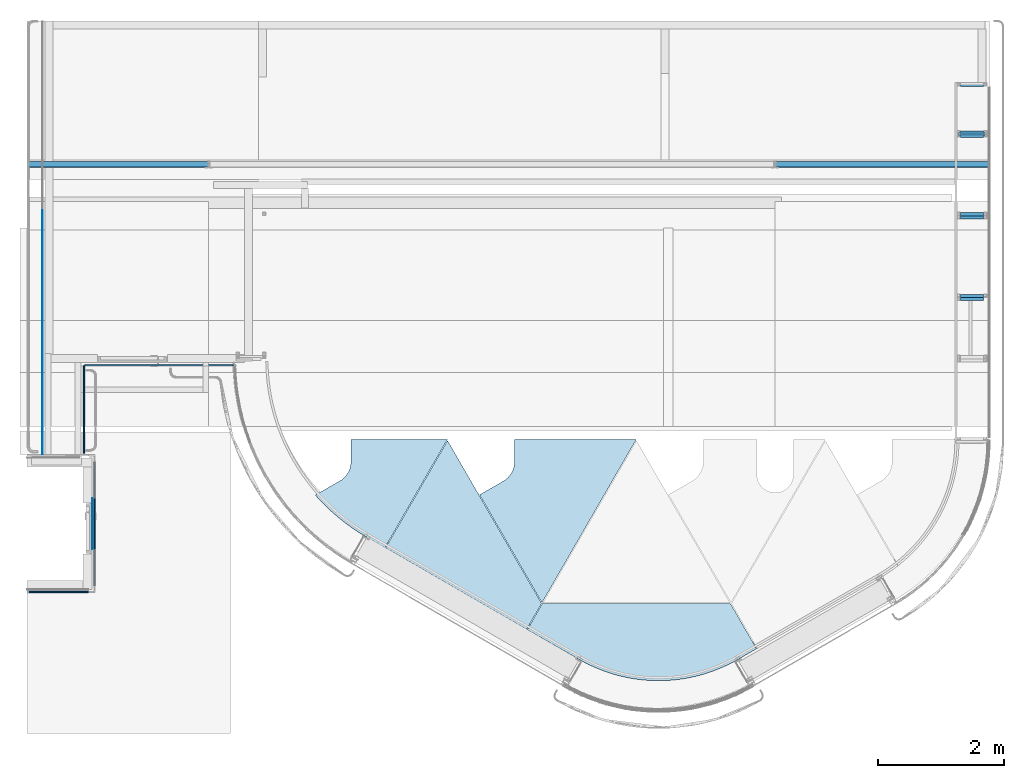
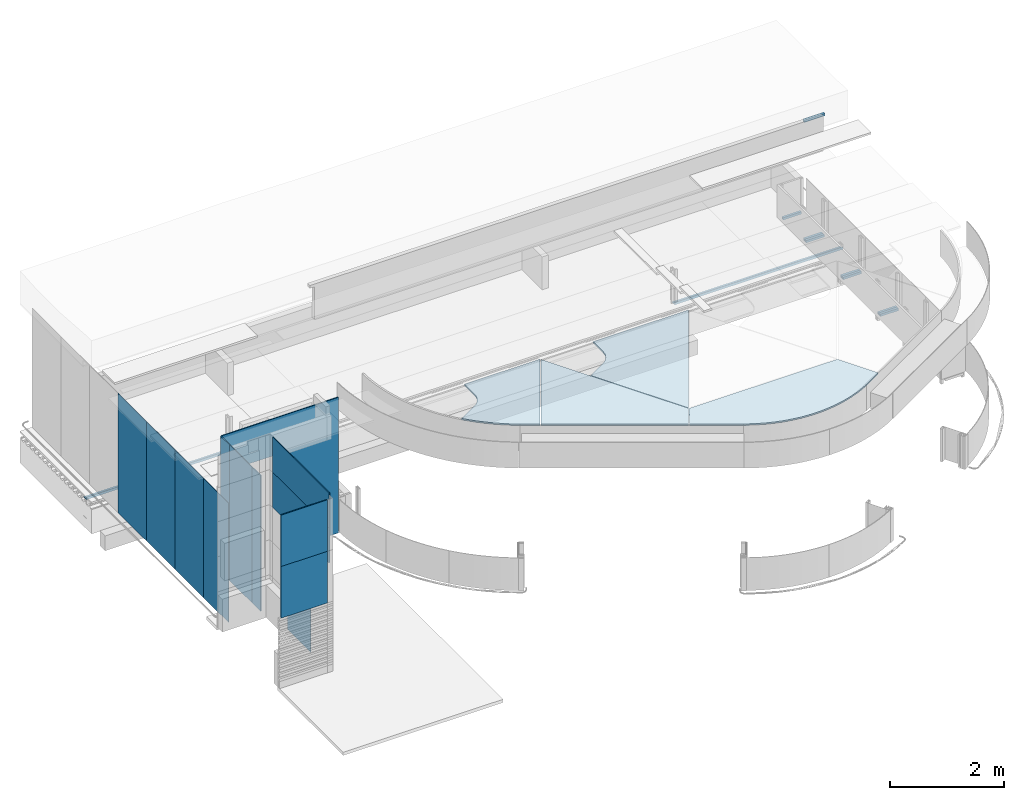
# One storey, part 8 of 18: 13 plates, 10 beams, 4 slabs, 5 elements without a shape of their own.
"""IFC2X3 building model written with IfcOpenShell, lengths in millimetres."""

from ifc_helpers import new_model, entity, si_unit, converted_unit, derived_unit, direction, frame, frame_2d, origin, origin_with_axes, origin_2d_with_axis, place, context, subcontext, project, spatial, polyline, circle_curve, parameter, trimmed, segment, composite_curve, rectangle, outline, extrude, boolean, faceted_brep, source, transform, mapped, material, layer, layer_set, layer_usage, type_object, element, aggregate, save


model = new_model("IFC2X3")

# Units and contexts
model_context = context("Model", 3, precision=0.01, world=frame((0.0, 4.29681676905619e-09, 0.0)), true_north=direction((4.01073788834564e-13, 1.0)))
plan_context = context("Plan", 3, precision=0.01, world=frame((0.0, 4.29681676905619e-09, 0.0)), true_north=direction((4.01073788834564e-13, 1.0)))
body_context = subcontext(model_context, "Body", "Model", "MODEL_VIEW")
ifc_project = project(units=[converted_unit("PLANEANGLEUNIT", "DEGREE", entity("IfcPositiveLengthMeasure", 0.0174532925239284), si_unit("PLANEANGLEUNIT", "RADIAN"), dimensions=[0, 0, 0, 0, 0, 0, 0]), si_unit("AREAUNIT", "SQUARE_METRE"), si_unit("LENGTHUNIT", "METRE", prefix="MILLI"), si_unit("MASSUNIT", "GRAM", prefix="KILO"), si_unit("POWERUNIT", "WATT"), si_unit("PRESSUREUNIT", "PASCAL"), si_unit("FORCEUNIT", "NEWTON", prefix="KILO"), si_unit("ELECTRICVOLTAGEUNIT", "VOLT"), si_unit("ELECTRICCURRENTUNIT", "AMPERE"), si_unit("THERMODYNAMICTEMPERATUREUNIT", "DEGREE_CELSIUS"), si_unit("TIMEUNIT", "SECOND"), si_unit("VOLUMEUNIT", "CUBIC_METRE"), derived_unit("LINEARVELOCITYUNIT", [(si_unit("LENGTHUNIT", "METRE"), 1), (si_unit("TIMEUNIT", "SECOND"), -1)]), derived_unit("VOLUMETRICFLOWRATEUNIT", [(si_unit("VOLUMEUNIT", "CUBIC_METRE"), 1), (si_unit("TIMEUNIT", "SECOND"), -1)]), derived_unit("THERMALTRANSMITTANCEUNIT", [(si_unit("POWERUNIT", "WATT"), 1), (si_unit("THERMODYNAMICTEMPERATUREUNIT", "KELVIN"), -1), (si_unit("AREAUNIT", "SQUARE_METRE"), -1)]), derived_unit("SOUNDPRESSUREUNIT", [(si_unit("PRESSUREUNIT", "PASCAL"), 1)])], contexts=[model_context, plan_context])

# Site, building, storey
site_placement = place(None, origin_with_axes())
site = spatial("IfcSite", under=ifc_project, at=site_placement, Name="ENGM", CompositionType="ELEMENT")
building_placement = place(site_placement, origin_with_axes())
building = spatial("IfcBuilding", under=site, at=building_placement, Name="TH", CompositionType="ELEMENT")
storey_placement = place(building_placement, frame((0.0, 0.0, 210200.0), z_axis=(0.0, 0.0, 1.0), x_axis=(1.0, 0.0, 0.0)))
storey = spatial("IfcBuildingStorey", under=building, at=storey_placement, Name="Nivå F - 0,7 m", CompositionType="ELEMENT", Elevation=210200.0)

# Beams
beam_type_1 = type_object("IfcBeamType", Name="B223 - Bjelke - L:B223 -100x50x8", PredefinedType="BEAM")
beam_1_placement = place(storey_placement, frame((889009.999999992, 485076.987499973, -4.0), z_axis=(0.0, 0.0, 1.0), x_axis=(1.0, 0.0, 0.0)))
element("IfcBeam", 1, at=beam_1_placement, inside=storey, type_object=beam_type_1, Name="B223 - Bjelke - L:B223 -100x50x8", ObjectType="B223 - Bjelke - L:B223 -100x50x8", context=body_context, shape_type="Brep", body=[
    faceted_brep([(6101.90616857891, -50.0, 0.0), (6101.90616857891, -42.0, -3.46496165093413e-11), (8980.00000000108, -42.0, -3.46496165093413e-11), (8980.00000000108, -50.0, 0.0), (6101.90616857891, -50.0, -49.9999999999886), (8980.00000000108, -50.0, -49.9999999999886), (6101.90616857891, 50.0, -50.0000000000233), (8980.00000000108, 50.0, -50.0000000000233), (6101.90616857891, 50.0, -42.0000000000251), (8980.00000000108, 50.0, -42.0000000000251), (6101.90616857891, -42.0, -42.0000000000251), (8980.00000000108, -42.0, -42.0000000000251)], [[[0, 1, 2, 3]], [[4, 0, 3, 5]], [[6, 4, 5, 7]], [[8, 6, 7, 9]], [[10, 8, 9, 11]], [[1, 10, 11, 2]], [[3, 2, 11, 9, 7, 5]], [[4, 6, 8, 10, 1, 0]]], orient=[[False], [False], [False], [False], [False], [False], [False], [False]]),
])
beam_2_placement = place(storey_placement, frame((907009.999999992, 485076.987499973, -4.0), z_axis=(0.0, 0.0, 1.0), x_axis=(1.0, 0.0, 0.0)))
element("IfcBeam", 2, at=beam_2_placement, inside=storey, type_object=beam_type_1, Name="B223 - Bjelke - L:B223 -100x50x8", ObjectType="B223 - Bjelke - L:B223 -100x50x8", context=body_context, shape_type="Brep", body=[
    faceted_brep([(3400.58484180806, -42.0, -3.46496165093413e-11), (3400.58484180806, -50.0, 0.0), (0.0, -50.0, 0.0), (0.0, -42.0, -3.46496165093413e-11), (3400.58484180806, -50.0, -49.9999999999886), (0.0, -50.0, -49.9999999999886), (3400.58484180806, 50.0, -50.0000000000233), (0.0, 50.0, -50.0000000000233), (3400.58484180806, 50.0, -42.0000000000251), (0.0, 50.0, -42.0000000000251), (3400.58484180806, -42.0, -42.0000000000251), (0.0, -42.0, -42.0000000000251)], [[[0, 1, 2, 3]], [[1, 4, 5, 2]], [[4, 6, 7, 5]], [[6, 8, 9, 7]], [[8, 10, 11, 9]], [[10, 0, 3, 11]], [[3, 2, 5, 7, 9, 11]], [[10, 8, 6, 4, 1, 0]]], orient=[[False], [False], [False], [False], [False], [False], [False], [False]]),
])
ifc_material_1 = material(Name="_NSW Stål")
beam_type_2 = type_object("IfcBeamType", Name="B223 - Bjelke - HUP2:B223 - HUP 50x50x5mm 2", PredefinedType="BEAM")
beam_3_placement = place(storey_placement, frame((910315.000000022, 485535.698933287, -1.0), z_axis=(0.0, 0.0, 1.0), x_axis=(-1.0, 0.0, 0.0)))
element("IfcBeam", 3, at=beam_3_placement, inside=storey, type_object=beam_type_2, material=ifc_material_1, Name="B223 - Bjelke - HUP2:B223 - HUP 50x50x5mm 2", ObjectType="B223 - Bjelke - HUP2:B223 - HUP 50x50x5mm 2", context=body_context, shape_type="SweptSolid", body=[
    boolean("DIFFERENCE", extrude(rectangle(XDim=49.9999999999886, YDim=49.999999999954, at=frame_2d((0.0, 3.46513928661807e-11), x_axis=(1.0, 0.0))), frame((0.0, 0.0, -25.0), z_axis=(1.0, 0.0, 0.0), x_axis=(0.0, 0.0, -1.0)), (0.0, 0.0, 1.0), 369.999999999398), extrude(rectangle(XDim=39.9999999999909, YDim=39.9999999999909, at=frame_2d((0.0, 0.0), x_axis=(0.0, 1.0))), frame((370.0, 0.0, -25.0), z_axis=(-1.0, 0.0, 0.0), x_axis=(0.0, 1.0, 0.0)), (0.0, 0.0, 1.0), 369.999999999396)),
])
beam_4_placement = place(storey_placement, frame((910340.000000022, 485560.698933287, 2565.0), z_axis=(0.0, 0.0, 1.0), x_axis=(-1.0, 0.0, 0.0)))
element("IfcBeam", 4, at=beam_4_placement, inside=storey, type_object=beam_type_2, material=ifc_material_1, Name="B223 - Bjelke - HUP2:B223 - HUP 50x50x5mm 2", ObjectType="B223 - Bjelke - HUP2:B223 - HUP 50x50x5mm 2", context=body_context, shape_type="SweptSolid", body=[
    boolean("DIFFERENCE", extrude(rectangle(XDim=49.9999999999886, YDim=50.0000000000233, at=origin_2d_with_axis()), frame((0.0, 0.0, -25.0), z_axis=(1.0, 0.0, 0.0), x_axis=(0.0, 0.0, -1.0)), (0.0, 0.0, 1.0), 419.999999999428), extrude(rectangle(XDim=39.9999999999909, YDim=39.9999999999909, at=frame_2d((0.0, 0.0), x_axis=(0.0, 1.0))), frame((420.0, 0.0, -25.0), z_axis=(-1.0, 0.0, 0.0), x_axis=(0.0, 1.0, 0.0)), (0.0, 0.0, 1.0), 419.999999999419)),
])
beam_5_placement = place(storey_placement, frame((910315.000000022, 485585.698933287, -1.0), z_axis=(0.0, 0.0, 1.0), x_axis=(-1.0, 0.0, 0.0)))
element("IfcBeam", 5, at=beam_5_placement, inside=storey, type_object=beam_type_2, material=ifc_material_1, Name="B223 - Bjelke - HUP2:B223 - HUP 50x50x5mm 2", ObjectType="B223 - Bjelke - HUP2:B223 - HUP 50x50x5mm 2", context=body_context, shape_type="SweptSolid", body=[
    boolean("DIFFERENCE", extrude(rectangle(XDim=50.0000000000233, YDim=50.0000000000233, at=origin_2d_with_axis()), frame((0.0, 0.0, -25.0), z_axis=(1.0, 0.0, 0.0), x_axis=(0.0, 0.0, -1.0)), (0.0, 0.0, 1.0), 369.999999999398), extrude(rectangle(XDim=39.9999999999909, YDim=39.9999999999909, at=frame_2d((0.0, 0.0), x_axis=(0.0, 1.0))), frame((0.0, 0.0, -25.0), z_axis=(1.0, 0.0, 0.0), x_axis=(0.0, -1.0, 0.0)), (0.0, 0.0, 1.0), 369.999999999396)),
])
beam_6_placement = place(storey_placement, frame((910315.000000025, 484236.656736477, -1.0), z_axis=(0.0, 0.0, 1.0), x_axis=(-1.0, 0.0, 0.0)))
element("IfcBeam", 6, at=beam_6_placement, inside=storey, type_object=beam_type_2, material=ifc_material_1, Name="B223 - Bjelke - HUP2:B223 - HUP 50x50x5mm 2", ObjectType="B223 - Bjelke - HUP2:B223 - HUP 50x50x5mm 2", context=body_context, shape_type="SweptSolid", body=[
    boolean("DIFFERENCE", extrude(rectangle(XDim=49.9999999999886, YDim=49.999999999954, at=frame_2d((0.0, 3.46513928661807e-11), x_axis=(1.0, 0.0))), frame((0.0, 0.0, -25.0), z_axis=(1.0, 0.0, 0.0), x_axis=(0.0, 0.0, -1.0)), (0.0, 0.0, 1.0), 369.999999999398), extrude(rectangle(XDim=39.9999999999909, YDim=39.9999999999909, at=frame_2d((0.0, 0.0), x_axis=(0.0, 1.0))), frame((370.0, 0.0, -25.0), z_axis=(-1.0, 0.0, 0.0), x_axis=(0.0, 1.0, 0.0)), (0.0, 0.0, 1.0), 369.999999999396)),
])
beam_7_placement = place(storey_placement, frame((910315.000000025, 484286.656736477, -1.0), z_axis=(0.0, 0.0, 1.0), x_axis=(-1.0, 0.0, 0.0)))
element("IfcBeam", 7, at=beam_7_placement, inside=storey, type_object=beam_type_2, material=ifc_material_1, Name="B223 - Bjelke - HUP2:B223 - HUP 50x50x5mm 2", ObjectType="B223 - Bjelke - HUP2:B223 - HUP 50x50x5mm 2", context=body_context, shape_type="SweptSolid", body=[
    boolean("DIFFERENCE", extrude(rectangle(XDim=50.0000000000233, YDim=50.0000000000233, at=origin_2d_with_axis()), frame((0.0, 0.0, -25.0), z_axis=(1.0, 0.0, 0.0), x_axis=(0.0, 0.0, -1.0)), (0.0, 0.0, 1.0), 369.999999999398), extrude(rectangle(XDim=39.9999999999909, YDim=39.9999999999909, at=frame_2d((0.0, 0.0), x_axis=(0.0, 1.0))), frame((0.0, 0.0, -25.0), z_axis=(1.0, 0.0, 0.0), x_axis=(0.0, -1.0, 0.0)), (0.0, 0.0, 1.0), 369.999999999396)),
])
beam_8_placement = place(storey_placement, frame((910315.000000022, 482937.436894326, -1.0), z_axis=(0.0, 0.0, 1.0), x_axis=(-1.0, 0.0, 0.0)))
element("IfcBeam", 8, at=beam_8_placement, inside=storey, type_object=beam_type_2, material=ifc_material_1, Name="B223 - Bjelke - HUP2:B223 - HUP 50x50x5mm 2", ObjectType="B223 - Bjelke - HUP2:B223 - HUP 50x50x5mm 2", context=body_context, shape_type="SweptSolid", body=[
    boolean("DIFFERENCE", extrude(rectangle(XDim=49.9999999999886, YDim=49.999999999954, at=frame_2d((0.0, 3.46513928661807e-11), x_axis=(1.0, 0.0))), frame((0.0, 0.0, -25.0), z_axis=(1.0, 0.0, 0.0), x_axis=(0.0, 0.0, -1.0)), (0.0, 0.0, 1.0), 369.999999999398), extrude(rectangle(XDim=39.9999999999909, YDim=39.9999999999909, at=frame_2d((0.0, 0.0), x_axis=(0.0, 1.0))), frame((370.0, 0.0, -25.0), z_axis=(-1.0, 0.0, 0.0), x_axis=(0.0, 1.0, 0.0)), (0.0, 0.0, 1.0), 369.999999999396)),
])
for number, where, z_axis, x_axis in (
    (9, (910315.000000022, 482987.436894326, -1.0), (0.0, 0.0, 1.0), (-1.0, 0.0, 0.0)),
    (10, (910315.000000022, 486339.606806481, -1.0), (0.0, 0.0, 1.0), (-1.0, 0.0, 0.0)),
):
    element("IfcBeam", number, at=place(storey_placement, frame(where, z_axis=z_axis, x_axis=x_axis)), inside=storey, type_object=beam_type_2, material=ifc_material_1, Name="B223 - Bjelke - HUP2:B223 - HUP 50x50x5mm 2", ObjectType="B223 - Bjelke - HUP2:B223 - HUP 50x50x5mm 2", context=body_context, shape_type="SweptSolid", body=[
        boolean("DIFFERENCE", extrude(rectangle(XDim=50.0000000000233, YDim=50.0000000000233, at=origin_2d_with_axis()), frame((0.0, 0.0, -25.0), z_axis=(1.0, 0.0, 0.0), x_axis=(0.0, 0.0, -1.0)), (0.0, 0.0, 1.0), 369.999999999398), extrude(rectangle(XDim=39.9999999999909, YDim=39.9999999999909, at=frame_2d((0.0, 0.0), x_axis=(0.0, 1.0))), frame((0.0, 0.0, -25.0), z_axis=(1.0, 0.0, 0.0), x_axis=(0.0, -1.0, 0.0)), (0.0, 0.0, 1.0), 369.999999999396)),
    ])

# Curtain wall, plates
curtain_wall_type_1 = type_object("IfcCurtainWallType", PredefinedType="NOTDEFINED")
curtain_wall_1_placement = place(storey_placement, frame((0.0, 0.0, -210200.0), z_axis=(0.0, 0.0, 1.0), x_axis=(1.0, 0.0, 0.0)))
curtain_wall_1 = element("IfcCurtainWall", 11, at=curtain_wall_1_placement, inside=storey, type_object=curtain_wall_type_1)
ifc_material_2 = material(Name="T2_Tre Finerplate")
plate_type_1 = type_object("IfcPlateType", Name="System Panel:A245 - Trepanel eksisterende", PredefinedType="CURTAIN_PANEL", material=ifc_material_2)
shared_shape_1 = source(origin(), body_context, "Body", "SweptSolid", [
    extrude(rectangle(XDim=20.0, YDim=935.000000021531, at=frame_2d((1.77635683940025e-15, 0.0), x_axis=(1.0, 0.0))), frame((0.0, 40.0, 0.0), z_axis=(0.0, 0.0, 1.0), x_axis=(0.0, 1.0, 0.0)), (0.0, 0.0, 1.0), 1104.99999999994),
])
plate_1_placement = place(curtain_wall_1_placement, frame((895617.499999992, 478322.727283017, 211695.0), z_axis=(0.0, 0.0, 1.0), x_axis=(-1.0, 0.0, 0.0)))
plate_1 = element("IfcPlate", 12, at=plate_1_placement, type_object=plate_type_1, material=ifc_material_2, Name="System Panel:A245 - Trepanel eksisterende", ObjectType="System Panel:A245 - Trepanel eksisterende", context=body_context, shape_type="MappedRepresentation", body=[
    mapped(shared_shape_1, transform((0.0, 0.0, 0.0), scale=1.0)),
])
plate_type_2 = type_object("IfcPlateType", Name="System Panel:A245 - Trepanel eksisterende", PredefinedType="CURTAIN_PANEL", material=ifc_material_2)
shared_shape_2 = source(origin(), body_context, "Body", "SweptSolid", [
    extrude(rectangle(XDim=20.0, YDim=935.000000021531, at=frame_2d((1.77635683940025e-15, 0.0), x_axis=(1.0, 0.0))), frame((0.0, 40.0, 0.0), z_axis=(0.0, 0.0, 1.0), x_axis=(0.0, 1.0, 0.0)), (0.0, 0.0, 1.0), 1099.99999999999),
])
plate_2_placement = place(curtain_wall_1_placement, frame((895617.499999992, 478322.727283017, 212800.0), z_axis=(0.0, 0.0, 1.0), x_axis=(-1.0, 0.0, 0.0)))
plate_2 = element("IfcPlate", 13, at=plate_2_placement, type_object=plate_type_2, material=ifc_material_2, Name="System Panel:A245 - Trepanel eksisterende", ObjectType="System Panel:A245 - Trepanel eksisterende", context=body_context, shape_type="MappedRepresentation", body=[
    mapped(shared_shape_2, transform((0.0, 0.0, 0.0), scale=1.0)),
])
aggregate(curtain_wall_1, [plate_1, plate_2])

curtain_wall_2_placement = place(storey_placement, frame((0.0, 0.0, -210200.0), z_axis=(0.0, 0.0, 1.0), x_axis=(1.0, 0.0, 0.0)))
curtain_wall_2 = element("IfcCurtainWall", 14, at=curtain_wall_2_placement, inside=storey, type_object=curtain_wall_type_1)
ifc_material_3 = material(Name="_NSW Luftspalte")
plate_type_3 = type_object("IfcPlateType", Name="Empty System Panel:A234 - Empty System Panel", PredefinedType="CURTAIN_PANEL", material=ifc_material_3)
shared_shape_3 = source(origin(), body_context, "Body", "SweptSolid", [
    extrude(rectangle(XDim=2250.00000000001, YDim=809.999999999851, at=frame_2d((195.000000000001, 0.0), x_axis=(1.0, 0.0))), frame((0.0, -0.500000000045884, 930.0), z_axis=(0.0, 1.0, 0.0), x_axis=(0.0, 0.0, 1.0)), (0.0, 0.0, 1.0), 1.0),
])
plate_3_placement = place(curtain_wall_2_placement, frame((896145.000000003, 479367.727283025, 210200.0), z_axis=(0.0, 0.0, 1.0), x_axis=(0.0, 1.0, 0.0)))
plate_3 = element("IfcPlate", 15, at=plate_3_placement, type_object=plate_type_3, material=ifc_material_3, Name="Empty System Panel:A234 - Empty System Panel", ObjectType="Empty System Panel:A234 - Empty System Panel", context=body_context, shape_type="MappedRepresentation", body=[
    mapped(shared_shape_3, transform((0.0, 0.0, 0.0), scale=1.0)),
])
ifc_material_4 = material(Name="Metal - Steel")
plate_type_4 = type_object("IfcPlateType", Name="System Panel:A245 - Metallkasett Inv.20mm - Offset 30mm", PredefinedType="CURTAIN_PANEL", material=ifc_material_4)
shared_shape_4 = source(origin(), body_context, "Body", "SweptSolid", [
    extrude(rectangle(XDim=750.000000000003, YDim=1972.27271698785, at=frame_2d((0.0, 0.568179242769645), x_axis=(1.0, 0.0))), frame((-0.568179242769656, -50.0, 375.0), z_axis=(0.0, 1.0, 0.0), x_axis=(0.0, 0.0, 1.0)), (0.0, 0.0, 1.0), 20.0),
])
plate_4_placement = place(curtain_wall_2_placement, frame((896145.000000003, 479368.86364151, 212450.0), z_axis=(0.0, 0.0, 1.0), x_axis=(0.0, 1.0, 0.0)))
plate_4 = element("IfcPlate", 16, at=plate_4_placement, type_object=plate_type_4, material=ifc_material_4, Name="System Panel:A245 - Metallkasett Inv.20mm - Offset 30mm", ObjectType="System Panel:A245 - Metallkasett Inv.20mm - Offset 30mm", context=body_context, shape_type="MappedRepresentation", body=[
    mapped(shared_shape_4, transform((0.0, 0.0, 0.0), scale=1.0)),
])
plate_5_placement = place(curtain_wall_2_placement, frame((896145.000000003, 479368.86364151, 213200.0), z_axis=(0.0, 0.0, 1.0), x_axis=(0.0, 1.0, 0.0)))
plate_5 = element("IfcPlate", 17, at=plate_5_placement, type_object=plate_type_4, material=ifc_material_4, Name="System Panel:A245 - Metallkasett Inv.20mm - Offset 30mm", ObjectType="System Panel:A245 - Metallkasett Inv.20mm - Offset 30mm", context=body_context, shape_type="MappedRepresentation", body=[
    mapped(shared_shape_4, transform((0.0, 0.0, 0.0), scale=1.0)),
])
aggregate(curtain_wall_2, [plate_3, plate_4, plate_5])

# Curtain wall, plate
curtain_wall_type_2 = type_object("IfcCurtainWallType", Name="Curtain Wall:A245 - IMK - Metal Kledning", PredefinedType="NOTDEFINED")
curtain_wall_3_placement = place(storey_placement, frame((0.0, 0.0, -210200.0), z_axis=(0.0, 0.0, 1.0), x_axis=(1.0, 0.0, 0.0)))
curtain_wall_3 = element("IfcCurtainWall", 18, at=curtain_wall_3_placement, inside=storey, type_object=curtain_wall_type_2, Name="Curtain Wall:A245 - IMK - Metal Kledning", ObjectType="Curtain Wall:A245 - IMK - Metal Kledning")
ifc_material_5 = material(Name="Metal - Preget plate")
plate_type_5 = type_object("IfcPlateType", Name="System Panel:A245 - KL-M00 - - - skal byttes manuelt", PredefinedType="CURTAIN_PANEL", material=ifc_material_5)
shared_shape_5 = source(origin(), body_context, "Body", "SweptSolid", [
    extrude(outline(polyline([(-1252.49999999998, -969.852314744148), (1647.49999999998, -969.852314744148), (1647.49999999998, 1391.55694423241), (-1252.49999999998, 1391.55694423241), (-1252.49999999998, 344.147685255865), (857.499999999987, 344.147685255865), (857.499999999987, -765.852314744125), (-1252.49999999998, -765.852314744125), (-1252.49999999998, -969.852314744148)])), frame((-210.852314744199, 0.0, 1252.49999999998), z_axis=(0.0, 1.0, 0.0), x_axis=(0.0, 0.0, 1.0)), (0.0, 0.0, 1.0), 20.0),
])
plate_6_placement = place(curtain_wall_3_placement, frame((897207.954629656, 481877.701352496, 210200.0), z_axis=(0.0, 0.0, 1.0), x_axis=(1.0, 0.0, 0.0)))
plate_6 = element("IfcPlate", 19, at=plate_6_placement, type_object=plate_type_5, material=ifc_material_5, Name="System Panel:A245 - KL-M00 - - - skal byttes manuelt", ObjectType="System Panel:A245 - KL-M00 - - - skal byttes manuelt", context=body_context, shape_type="MappedRepresentation", body=[
    mapped(shared_shape_5, transform((0.0, 0.0, 0.0), scale=1.0)),
])
aggregate(curtain_wall_3, [plate_6])

# Curtain wall, plates
curtain_wall_type_3 = type_object("IfcCurtainWallType", PredefinedType="NOTDEFINED")
curtain_wall_4_placement = place(storey_placement, frame((0.0, 0.0, -210200.0), z_axis=(0.0, 0.0, 1.0), x_axis=(1.0, 0.0, 0.0)))
curtain_wall_4 = element("IfcCurtainWall", 20, at=curtain_wall_4_placement, inside=storey, type_object=curtain_wall_type_3)
ifc_material_6 = material(Name="Glass(Avinor)")
plate_type_6 = type_object("IfcPlateType", Name="System Panel:A245 - T1 - Glass - 10 mm", PredefinedType="CURTAIN_PANEL", material=ifc_material_6)
shared_shape_6 = source(origin(), body_context, "Body", "SweptSolid", [
    extrude(rectangle(XDim=10.0, YDim=872.906520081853, at=origin_2d_with_axis()), frame((0.0, -5.0, 0.0), z_axis=(0.0, 0.0, 1.0), x_axis=(0.0, 1.0, 0.0)), (0.0, 0.0, 1.0), 2550.00000000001),
])
plate_7_placement = place(curtain_wall_4_placement, frame((895353.250000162, 480911.154612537, 210200.0), z_axis=(0.0, 0.0, 1.0), x_axis=(0.0, 1.0, 0.0)))
plate_7 = element("IfcPlate", 21, at=plate_7_placement, type_object=plate_type_6, material=ifc_material_6, Name="System Panel:A245 - T1 - Glass - 10 mm", ObjectType="System Panel:A245 - T1 - Glass - 10 mm", context=body_context, shape_type="MappedRepresentation", body=[
    mapped(shared_shape_6, transform((0.0, 0.0, 0.0), scale=1.0)),
])
plate_type_7 = type_object("IfcPlateType", Name="System Panel:A245 - T1 - Glass - 10 mm", PredefinedType="CURTAIN_PANEL", material=ifc_material_6)
shared_shape_7 = source(origin(), body_context, "Body", "SweptSolid", [
    extrude(rectangle(XDim=10.0, YDim=999.99999999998, at=frame_2d((-4.44089209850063e-16, 0.0), x_axis=(1.0, 0.0))), frame((0.0, -5.0, 0.0), z_axis=(0.0, 0.0, 1.0), x_axis=(0.0, 1.0, 0.0)), (0.0, 0.0, 1.0), 2550.00000000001),
])
plate_8_placement = place(curtain_wall_4_placement, frame((895353.250000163, 481847.607872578, 210200.0), z_axis=(0.0, 0.0, 1.0), x_axis=(0.0, 1.0, 0.0)))
plate_8 = element("IfcPlate", 22, at=plate_8_placement, type_object=plate_type_7, material=ifc_material_6, Name="System Panel:A245 - T1 - Glass - 10 mm", ObjectType="System Panel:A245 - T1 - Glass - 10 mm", context=body_context, shape_type="MappedRepresentation", body=[
    mapped(shared_shape_7, transform((0.0, 0.0, 0.0), scale=1.0)),
])
plate_9_placement = place(curtain_wall_4_placement, frame((895353.250000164, 482847.607872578, 210200.0), z_axis=(0.0, 0.0, 1.0), x_axis=(0.0, 1.0, 0.0)))
plate_9 = element("IfcPlate", 23, at=plate_9_placement, type_object=plate_type_7, material=ifc_material_6, Name="System Panel:A245 - T1 - Glass - 10 mm", ObjectType="System Panel:A245 - T1 - Glass - 10 mm", context=body_context, shape_type="MappedRepresentation", body=[
    mapped(shared_shape_7, transform((0.0, 0.0, 0.0), scale=1.0)),
])
plate_10_placement = place(curtain_wall_4_placement, frame((895353.250000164, 483847.607872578, 210200.0), z_axis=(0.0, 0.0, 1.0), x_axis=(0.0, 1.0, 0.0)))
plate_10 = element("IfcPlate", 24, at=plate_10_placement, type_object=plate_type_7, material=ifc_material_6, Name="System Panel:A245 - T1 - Glass - 10 mm", ObjectType="System Panel:A245 - T1 - Glass - 10 mm", context=body_context, shape_type="MappedRepresentation", body=[
    mapped(shared_shape_7, transform((0.0, 0.0, 0.0), scale=1.0)),
])
aggregate(curtain_wall_4, [plate_7, plate_8, plate_9, plate_10])

curtain_wall_5_placement = place(storey_placement, frame((0.0, 0.0, -210200.0), z_axis=(0.0, 0.0, 1.0), x_axis=(1.0, 0.0, 0.0)))
curtain_wall_5 = element("IfcCurtainWall", 25, at=curtain_wall_5_placement, inside=storey, type_object=curtain_wall_type_2, Name="Curtain Wall:A245 - IMK - Metal Kledning", ObjectType="Curtain Wall:A245 - IMK - Metal Kledning")
plate_type_8 = type_object("IfcPlateType", Name="System Panel:A245 - KL-M00 - - - skal byttes manuelt", PredefinedType="CURTAIN_PANEL", material=ifc_material_5)
shared_shape_8 = source(origin(), body_context, "Body", "SweptSolid", [
    extrude(rectangle(XDim=20.0, YDim=300.000000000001, at=origin_2d_with_axis()), frame((0.0, 10.0, 0.0), z_axis=(0.0, 0.0, 1.0), x_axis=(0.0, 1.0, 0.0)), (0.0, 0.0, 1.0), 2900.0),
])
plate_11_placement = place(curtain_wall_5_placement, frame((896027.250000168, 480635.000000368, 210200.0), z_axis=(0.0, 0.0, 1.0), x_axis=(0.0, 1.0, 0.0)))
plate_11 = element("IfcPlate", 26, at=plate_11_placement, type_object=plate_type_8, material=ifc_material_5, Name="System Panel:A245 - KL-M00 - - - skal byttes manuelt", ObjectType="System Panel:A245 - KL-M00 - - - skal byttes manuelt", context=body_context, shape_type="MappedRepresentation", body=[
    mapped(shared_shape_8, transform((0.0, 0.0, 0.0), scale=1.0)),
])
plate_12_placement = place(curtain_wall_5_placement, frame((896027.250000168, 481727.701352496, 210200.0), z_axis=(0.0, 0.0, 1.0), x_axis=(0.0, 1.0, 0.0)))
plate_12 = element("IfcPlate", 27, at=plate_12_placement, type_object=plate_type_8, material=ifc_material_5, Name="System Panel:A245 - KL-M00 - - - skal byttes manuelt", ObjectType="System Panel:A245 - KL-M00 - - - skal byttes manuelt", context=body_context, shape_type="MappedRepresentation", body=[
    mapped(shared_shape_8, transform((0.0, 0.0, 0.0), scale=1.0)),
])
plate_type_9 = type_object("IfcPlateType", Name="System Panel:A245 - KL-M00 - - - skal byttes manuelt", PredefinedType="CURTAIN_PANEL", material=ifc_material_5)
shared_shape_9 = source(origin(), body_context, "Body", "SweptSolid", [
    extrude(rectangle(XDim=20.0, YDim=792.701352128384, at=origin_2d_with_axis()), frame((0.0, 10.0, 0.0), z_axis=(0.0, 0.0, 1.0), x_axis=(0.0, 1.0, 0.0)), (0.0, 0.0, 1.0), 2900.0),
])
plate_13_placement = place(curtain_wall_5_placement, frame((896027.250000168, 481181.350676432, 210200.0), z_axis=(0.0, 0.0, 1.0), x_axis=(0.0, 1.0, 0.0)))
plate_13 = element("IfcPlate", 28, at=plate_13_placement, type_object=plate_type_9, material=ifc_material_5, Name="System Panel:A245 - KL-M00 - - - skal byttes manuelt", ObjectType="System Panel:A245 - KL-M00 - - - skal byttes manuelt", context=body_context, shape_type="MappedRepresentation", body=[
    mapped(shared_shape_9, transform((0.0, 0.0, 0.0), scale=1.0)),
])
aggregate(curtain_wall_5, [plate_11, plate_13, plate_12])

# Slabs
ifc_layer_1 = layer(ifc_material_6, 8.0)
ifc_layer_2 = layer(ifc_material_3, 2.0)
ifc_layer_3 = layer(ifc_material_6, 10.0)
ifc_layer_4 = layer(ifc_material_3, 2.0)
ifc_layer_5 = layer(ifc_material_6, 10.0)
ifc_layer_set = layer_set([ifc_layer_1, ifc_layer_2, ifc_layer_3, ifc_layer_4, ifc_layer_5], Name="Floor:A254 - GU-G0X Glass 32 LYS")
ifc_layer_usage = layer_usage(ifc_layer_set, "AXIS3", "POSITIVE", 0.0)
slab_type = type_object("IfcSlabType", Name="Floor:A254 - GU-G0X Glass 32 LYS", PredefinedType="FLOOR", material=ifc_layer_set)
slab_1_placement = place(storey_placement, frame((899692.99544573, 476874.182723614, 3205.0), z_axis=(0.0, 0.0, 1.0), x_axis=(1.0, 0.0, 0.0)))
element("IfcSlab", 29, at=slab_1_placement, inside=storey, type_object=slab_type, material=ifc_layer_usage, Name="Floor:A254 - GU-G0X Glass 32 LYS:3", ObjectType="Floor:A254 - GU-G0X Glass 32 LYS", PredefinedType="FLOOR", context=body_context, shape_type="SweptSolid", body=[
    extrude(outline(composite_curve([segment(polyline([(1948.98983804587, 1916.37233031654), (14.3508443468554, 1916.37233031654)]), True, "CONTINUOUS"), segment(polyline([(14.3508443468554, 1916.37233031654), (1512.57610632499, -678.596159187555)]), True, "CONTINUOUS"), segment(polyline([(1512.57610632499, -678.596159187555), (2504.07752672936, 1038.73467673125)]), True, "CONTINUOUS"), segment(polyline([(2504.07752672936, 1038.73467673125), (2152.07706705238, 1241.96223688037)]), True, "CONTINUOUS"), segment(trimmed(circle_curve(frame_2d((2308.98983804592, 1565.96591324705), x_axis=(-1.0, 0.0)), 359.999999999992), [parameter(0.0)], [parameter(64.1594096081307)], True, "PARAMETER"), False, "CONTINUOUS"), segment(polyline([(1948.98983804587, 1565.96591324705), (1948.98983804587, 1916.37233031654)]), True, "CONTINUOUS")], self_intersect=False)), frame((5115.99439231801, 1914.8513631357, 32.0), z_axis=(0.0, 0.0, -1.0), x_axis=(-1.0, 0.0, 0.0)), (0.0, 0.0, 1.0), 31.9999999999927),
])
slab_2_placement = place(storey_placement, frame((899692.99544573, 476874.182723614, 3205.0), z_axis=(0.0, 0.0, 1.0), x_axis=(1.0, 0.0, 0.0)))
element("IfcSlab", 30, at=slab_2_placement, inside=storey, type_object=slab_type, material=ifc_layer_usage, Name="Floor:A254 - GU-G0X Glass 32 LYS:5", ObjectType="Floor:A254 - GU-G0X Glass 32 LYS", PredefinedType="FLOOR", context=body_context, shape_type="SweptSolid", body=[
    extrude(outline(composite_curve([segment(trimmed(circle_curve(frame_2d((4908.98983804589, 1565.96591324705), x_axis=(-1.0, 0.0)), 359.999999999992), [parameter(0.0)], [parameter(52.563201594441)], True, "PARAMETER"), False, "CONTINUOUS"), segment(polyline([(4548.98983807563, 1565.96591324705), (4548.98983807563, 1916.37233031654)]), True, "CONTINUOUS"), segment(polyline([(4548.98983807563, 1916.37233031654), (3016.58442976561, 1916.37233031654)]), True, "CONTINUOUS"), segment(polyline([(3016.58442976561, 1916.37233031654), (4008.41674357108, 198.468370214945)]), True, "CONTINUOUS"), segment(polyline([(4008.41674357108, 198.468370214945), (4319.08630089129, 377.335767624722)]), True, "CONTINUOUS"), segment(trimmed(circle_curve(frame_2d((2654.00056843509, 3209.06924793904), x_axis=(-1.0, 0.0)), 3284.99999999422), [parameter(120.455925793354)], [parameter(138.544089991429)], True, "PARAMETER"), True, "CONTINUOUS"), segment(polyline([(5115.99439231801, 1034.25628790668), (4690.15090329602, 1280.11714092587)]), True, "CONTINUOUS")], self_intersect=False)), frame((5115.99439231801, 1914.8513631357, 32.0), z_axis=(0.0, 0.0, -1.0), x_axis=(-1.0, 0.0, 0.0)), (0.0, 0.0, 1.0), 31.9999999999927),
])
slab_3_placement = place(storey_placement, frame((899692.99544573, 476874.182723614, 3205.0), z_axis=(0.0, 0.0, 1.0), x_axis=(1.0, 0.0, 0.0)))
element("IfcSlab", 31, at=slab_3_placement, inside=storey, type_object=slab_type, material=ifc_layer_usage, Name="Floor:A254 - GU-G0X Glass 32 LYS:6", ObjectType="Floor:A254 - GU-G0X Glass 32 LYS", PredefinedType="FLOOR", context=body_context, shape_type="SweptSolid", body=[
    extrude(outline(composite_curve([segment(polyline([(1746.55180340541, -1105.12868178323), (1509.14496649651, -691.627669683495)]), True, "CONTINUOUS"), segment(polyline([(1509.14496649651, -691.627669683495), (-1485.65847963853, -691.627669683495)]), True, "CONTINUOUS"), segment(polyline([(-1485.65847963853, -691.627669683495), (-1899.01635600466, -1407.57519191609)]), True, "CONTINUOUS"), segment(polyline([(-1899.01635600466, -1407.57519191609), (-1596.7515290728, -1581.13133258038)]), True, "CONTINUOUS"), segment(trimmed(circle_curve(frame_2d((-339.636320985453, 608.256547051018), x_axis=(-1.0, 0.0)), 2524.63025686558), [parameter(60.136173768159)], [parameter(119.861790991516)], True, "PARAMETER"), True, "CONTINUOUS"), segment(polyline([(917.401115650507, -1581.17598599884), (1746.55180340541, -1105.12868178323)]), True, "CONTINUOUS")], self_intersect=False)), frame((5115.99439231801, 1914.8513631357, 32.0), z_axis=(0.0, 0.0, -1.0), x_axis=(-1.0, 0.0, 0.0)), (0.0, 0.0, 1.0), 31.9999999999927),
])
slab_4_placement = place(storey_placement, frame((899692.99544573, 476874.182723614, 3205.0), z_axis=(0.0, 0.0, 1.0), x_axis=(1.0, 0.0, 0.0)))
element("IfcSlab", 32, at=slab_4_placement, inside=storey, type_object=slab_type, material=ifc_layer_usage, Name="Floor:A254 - GU-G0X Glass 32 LYS:8", ObjectType="Floor:A254 - GU-G0X Glass 32 LYS", PredefinedType="FLOOR", context=body_context, shape_type="SweptSolid", body=[
    extrude(outline(polyline([(1518.34397277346, -688.60592144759), (1756.21411802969, -1100.50538680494), (3999.03678974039, 194.714926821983), (3013.68314602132, 1901.39750116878), (1518.34397277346, -688.60592144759)])), frame((5115.99439231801, 1914.8513631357, 32.0), z_axis=(0.0, 0.0, -1.0), x_axis=(-1.0, 0.0, 0.0)), (0.0, 0.0, 1.0), 31.9999999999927),
])

save(model, "model.ifc")
